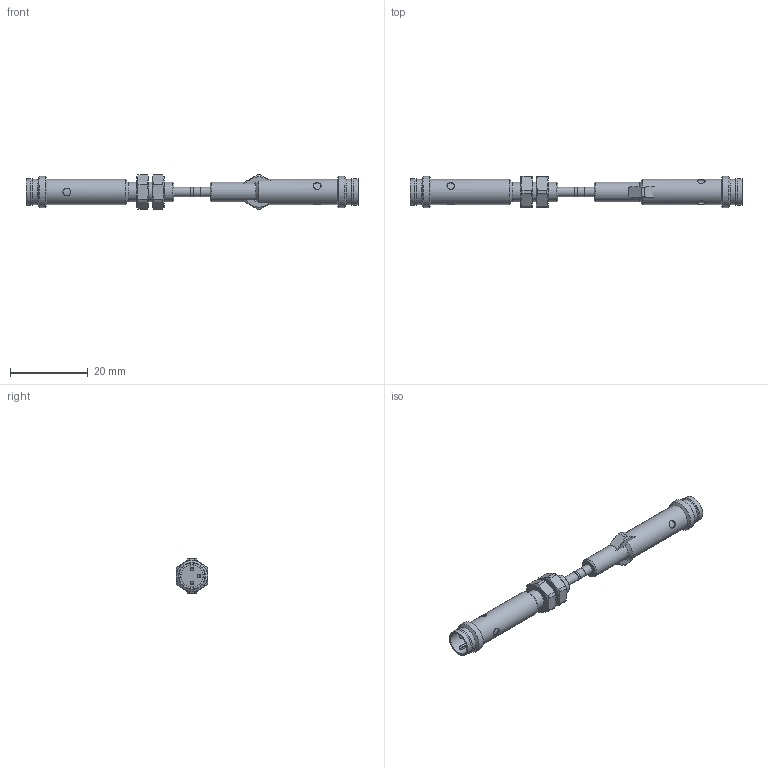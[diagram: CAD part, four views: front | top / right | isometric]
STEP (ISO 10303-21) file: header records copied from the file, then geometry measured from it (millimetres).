
FILE_DESCRIPTION( ( 'Unknown' ), '1' );
FILE_NAME( '//baumerholding.org/frauenfeld/bereich/BECH/Services/me_CAD/Solid Edge/Models/Dokumentationen/Induktiv/IxRx 03/Vereinfachte Modelle/Neutralformate/IFRM 03xx505_CS35L.stp', 'Unknown', ( 'Unknown' ), ( 'Unknown' ), 'XStep 1.0', 'Unknown', ' ' );
FILE_SCHEMA( ( 'CONFIG_CONTROL_DESIGN' ) );
Length unit declared in the file: millimetre
Products named in the file (4): Assem1; FRM 03xx505_CL35L_oA; IFRM 03xx505_CS35L_Auswerteeinheit; 101466
Bounding box: 85.4 x 8 x 8.8 mm (x, y, z)
Volume: 2592.7 mm3; surface area: 2847.4 mm2
Topology: 7 solids, 7 shells, 219 faces, 539 edges, 350 vertices
Faces by surface type: plane 116, cylinder 77, cone 26
Full cylindrical faces by diameter (mm): 2 x6, 2.4 x4, 3 x2, 4.459 x3, 5 x2, 5.7 x2, 5.8 x2, 6.5 x4, 6.9 x2, 8 x2
Entity records: 3214 total; most frequent: CARTESIAN_POINT 763, DIRECTION 482, ORIENTED_EDGE 428, EDGE_CURVE 214, AXIS2_PLACEMENT_3D 181, VERTEX_POINT 154, EDGE_LOOP 136, LINE 120
